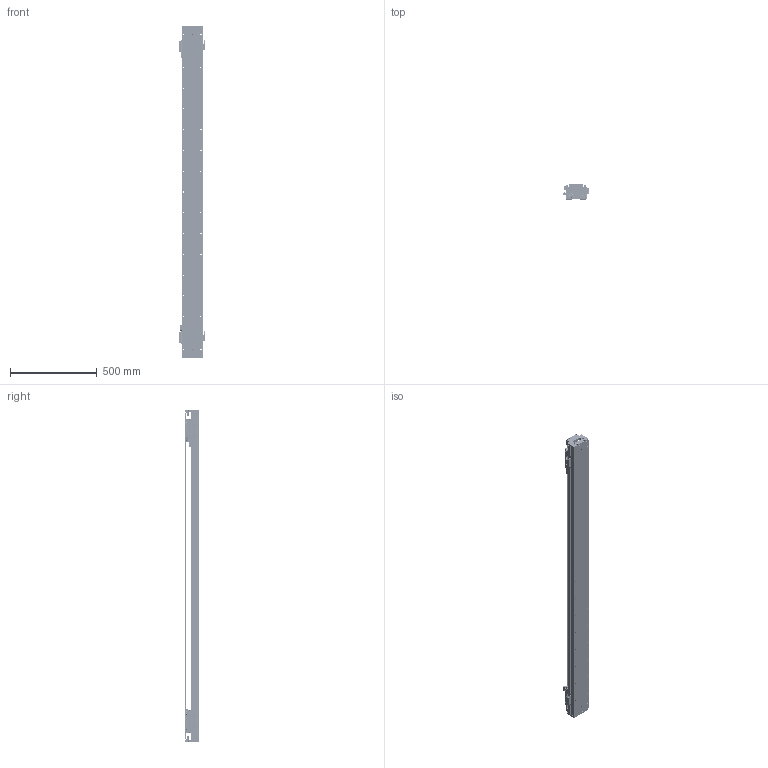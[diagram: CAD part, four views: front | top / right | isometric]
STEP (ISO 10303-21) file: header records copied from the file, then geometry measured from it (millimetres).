
FILE_DESCRIPTION (( 'STEP AP203' ), '1' );
FILE_NAME ('DKW120-2×B15-W060（T1520-L005-0.2）.STEP', '2021-09-29T03:00:43', ( '微软用户' ), ( '微软中国' ), 'SwSTEP 2.0', 'SolidWorks 2018', '' );
FILE_SCHEMA (( 'CONFIG_CONTROL_DESIGN' ));
Length unit declared in the file: millimetre
Products named in the file (26): Ru2; DKW-HXJ-JY-00 遣喳砎蝶; DKW-HYB-JY-A-00 賑輸揤啣A; DKW119-RU-DTJ-00 RU2黍杅芛盓殤; 10940-0001-004-00 120詩湍裔啣; DKW119-HT-C15-00 賑怢啣; 10980-0001-003-00 嫖萇羲壽嘐隅釱; 砎蝶猾沭; MSB15TS2FC+U92.7-16.35_16.35N_(0_45.85_0_01G-M4); EE_SX674A; 12160-0000-003-00 DKW120詩湍嶺輸; BKM015-W060-C1-TP-3; DKW-DG-XJ-Z-00 笢潔滅袉砎蝶; 12160-0000-004-00  DKW120詩湍揤輸; B15-W060; DKW-GYP-ZJ-00 笢潔嫖萇覜茼え; DKW120 单轴模组-拉钢带组件; MSB15-DG-U; DKW-KGZ-ZJ-00 中间光电开关支架; BKMA01-W060-TRL280; 06652-0001-001-00 DKW120傷啣; DKW120-2×B15-W060（T1520-L005-0.2）; DKW120-B15-T300-DZ-00 菁釱; RUS嫖掑喜; 06652-0001-004-00 DKW120嶺輸菜輸; DKW-SG-GYP-H-00 嫖萇覜茼え
Assembly tree (48 placements, depth 3):
  DKW120-2×B15-W060（T1520-L005-0.2）
    DKW120-B15-T300-DZ-00 菁釱
    B15-W060  x2
      DKW-SG-GYP-H-00 嫖萇覜茼え
      DKW-HYB-JY-A-00 賑輸揤啣A
      DKW119-HT-C15-00 賑怢啣
      MSB15TS2FC+U92.7-16.35_16.35N_(0_45.85_0_01G-M4)
      BKM015-W060-C1-TP-3
    MSB15-DG-U  x2
    DKW120 单轴模组-拉钢带组件
      06652-0001-001-00 DKW120傷啣  x2
      06652-0001-004-00 DKW120嶺輸菜輸  x4
      DKW-HXJ-JY-00 遣喳砎蝶  x4
      10940-0001-004-00 120詩湍裔啣
      砎蝶猾沭  x2
      12160-0000-003-00 DKW120詩湍嶺輸  x2
      12160-0000-004-00  DKW120詩湍揤輸  x2
    BKMA01-W060-TRL280
    RUS嫖掑喜
    Ru2  x2
    DKW119-RU-DTJ-00 RU2黍杅芛盓殤  x2
    10980-0001-003-00 嫖萇羲壽嘐隅釱  x2
    EE_SX674A  x5
    DKW-DG-XJ-Z-00 笢潔滅袉砎蝶
    DKW-GYP-ZJ-00 笢潔嫖萇覜茼え
    DKW-KGZ-ZJ-00 中间光电开关支架
Bounding box: 154.09 x 84 x 1916 mm (x, y, z)
Volume: 6944796.5 mm3; surface area: 2745531.3 mm2
Topology: 76 solids, 174 shells, 6932 faces, 18736 edges, 12075 vertices
Faces by surface type: plane 3946, cylinder 1896, cone 556, bspline 534
Entity records: 130058 total; most frequent: CARTESIAN_POINT 46207, ORIENTED_EDGE 17255, DIRECTION 15895, EDGE_CURVE 8668, VERTEX_POINT 5681, AXIS2_PLACEMENT_3D 5306, LINE 5283, VECTOR 5283
